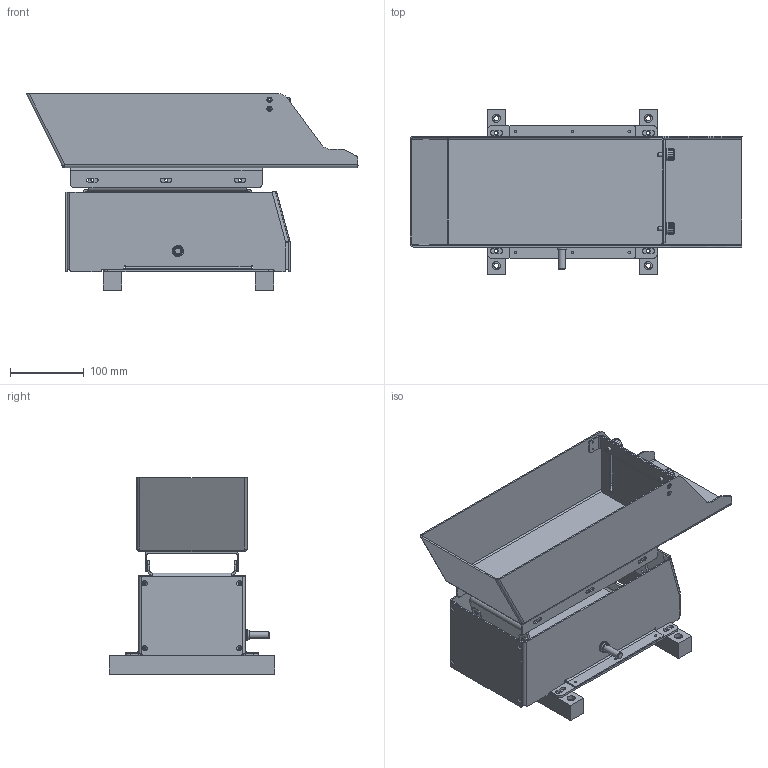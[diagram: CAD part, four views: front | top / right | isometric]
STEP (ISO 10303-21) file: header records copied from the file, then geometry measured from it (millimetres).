
FILE_DESCRIPTION(/* description */ (''),/* implementation_level */ '2;1');
FILE_NAME(/* name */ 'UniHopper3.0 - share.stp',/* time_stamp */ '2026-05-21T23:41:30+09:00',/* author */ ('houns'),/* organization */ (''),/* preprocessor_version */ 'ST-DEVELOPER v20',/* originating_system */ 'Autodesk Inventor 2024',/* authorisation */ '');
FILE_SCHEMA (('AUTOMOTIVE_DESIGN { 1 0 10303 214 3 1 1 }'));
Length unit declared in the file: millimetre
Products named in the file (14): UniHopper3.0; Ho3-12_Block; Ho3-01_0.1; Ho3-13_Block; Ho3-01; Ho3-15_SideCover; Ho3-15_SideCover_MIR; Ho3-16_SideCover; Ho3-17_SideCover; Ho3-18_Hopper inner; Ho3-19_Hopper inner; NBMP5-16-10-B; PRC커넥터2; Ho3-20_Hopper for 3.1
Assembly tree (19 placements, depth 2):
  UniHopper3.0
    Ho3-12_Block
    Ho3-01_0.1  x4
    Ho3-13_Block
    Ho3-01
    Ho3-15_SideCover
    Ho3-15_SideCover_MIR
    Ho3-16_SideCover
    Ho3-17_SideCover
    Ho3-18_Hopper inner
    Ho3-19_Hopper inner
    NBMP5-16-10-B  x2
    PRC커넥터2  x2
    Ho3-20_Hopper for 3.1  x2
Bounding box: 450 x 224 x 266.05 mm (x, y, z)
Volume: 1170003.8 mm3; surface area: 820391.1 mm2
Topology: 19 solids, 19 shells, 710 faces, 1773 edges, 1140 vertices
Faces by surface type: plane 384, cylinder 300, cone 18, sphere 4, bspline 2, torus 2
Full cylindrical faces by diameter (mm): 1 x4, 2.459 x14, 3 x2, 3.3 x16, 4 x4, 4.134 x12, 4.5 x2, 4.917 x12, 5 x2, 6 x9, 6.6 x12, 9 x6, 11 x8, 13 x3, 15 x2, 16 x2
Entity records: 18929 total; most frequent: DIRECTION 3322, CARTESIAN_POINT 3174, ORIENTED_EDGE 3014, EDGE_CURVE 1507, AXIS2_PLACEMENT_3D 1194, VERTEX_POINT 950, LINE 934, VECTOR 934
